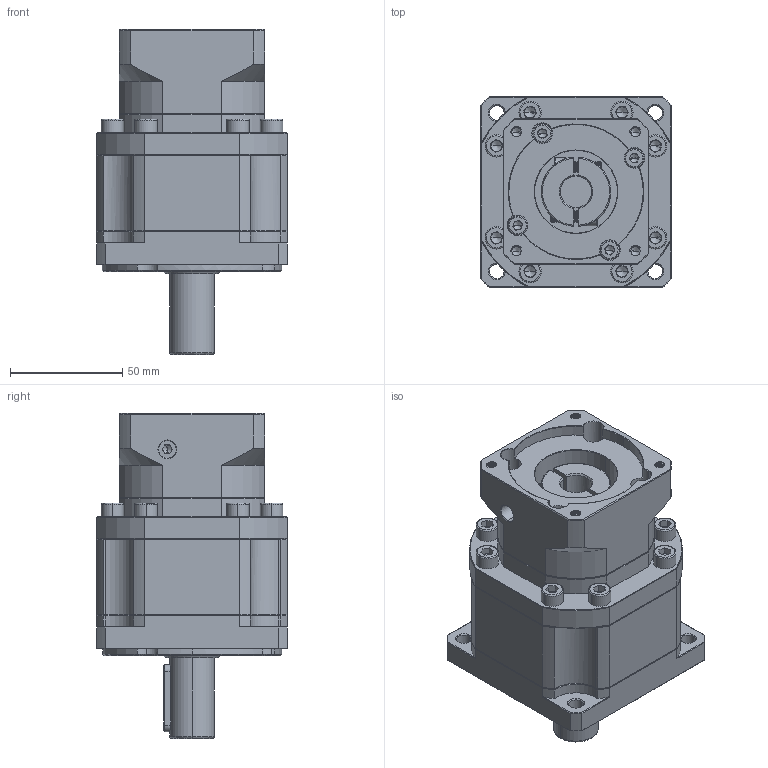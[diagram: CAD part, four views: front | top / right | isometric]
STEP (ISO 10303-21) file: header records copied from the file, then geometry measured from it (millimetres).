
FILE_DESCRIPTION (( 'STEP AP214' ), '1' );
FILE_NAME ('ZB90-D20-L2-14-60-75-M5.STEP', '2022-05-02T15:26:12', ( '' ), ( 'Microsoft' ), 'SwSTEP 2.0', 'SolidWorks 2016', '' );
FILE_SCHEMA (( 'AUTOMOTIVE_DESIGN' ));
Length unit declared in the file: millimetre
Products named in the file (1): ZB90-D20-L2-14-60-75-M5
Bounding box: 85 x 85 x 145 mm (x, y, z)
Volume: 538625.9 mm3; surface area: 76200.4 mm2
Topology: 6 solids, 6 shells, 2091 faces, 5487 edges, 3483 vertices
Faces by surface type: plane 1005, cylinder 409, bspline 328, cone 327, torus 22
Entity records: 110463 total; most frequent: CARTESIAN_POINT 38607, ORIENTED_EDGE 10882, DIRECTION 9012, EDGE_CURVE 5441, VERTEX_POINT 3483, LINE 3330, VECTOR 3330, AXIS2_PLACEMENT_3D 2841
